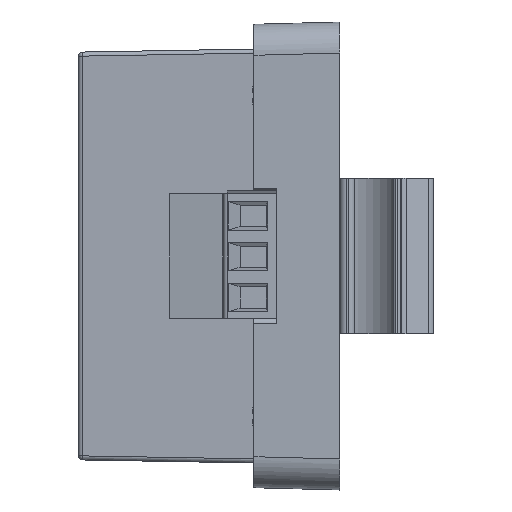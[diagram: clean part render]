
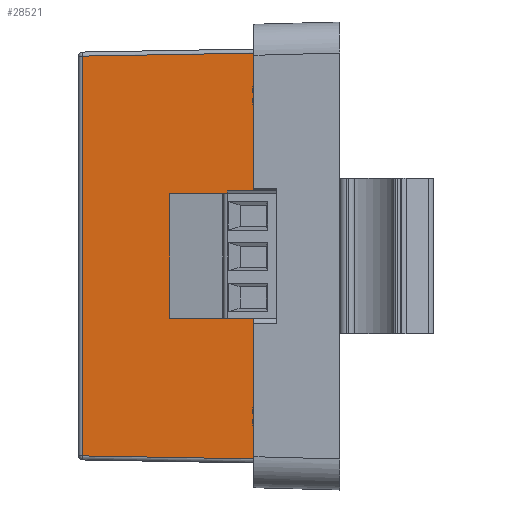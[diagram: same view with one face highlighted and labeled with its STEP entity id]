
A CAD part, left-side view. The second image highlights one B-rep face of the part: STEP entity #28521.
In plain terms, the highlighted planar face has unit normal (-1, 0.018, 0).
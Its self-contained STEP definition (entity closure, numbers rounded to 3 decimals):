
#2460 = VECTOR ( 'NONE', #54352, 1000. ) ;
#4736 = VECTOR ( 'NONE', #50736, 1000. ) ;
#6602 = ORIENTED_EDGE ( 'NONE', *, *, #67703, .F. ) ;
#7747 = ORIENTED_EDGE ( 'NONE', *, *, #43440, .T. ) ;
#9384 = EDGE_CURVE ( 'NONE', #73257, #43495, #50613, .T. ) ;
#9405 = AXIS2_PLACEMENT_3D ( 'NONE', #93830, #40910, #65436 ) ;
#15999 = FACE_OUTER_BOUND ( 'NONE', #50869, .T. ) ;
#18017 = CARTESIAN_POINT ( 'NONE',  ( -35.969, 10.381, 100.472 ) ) ;
#23160 = ORIENTED_EDGE ( 'NONE', *, *, #9384, .T. ) ;
#26857 = EDGE_CURVE ( 'NONE', #36971, #73257, #29160, .T. ) ;
#28521 = ADVANCED_FACE ( 'NONE', ( #15999 ), #46468, .T. ) ;
#29160 = LINE ( 'NONE', #42237, #4736 ) ;
#33266 = CARTESIAN_POINT ( 'NONE',  ( -36.397, -14.128, 51.1 ) ) ;
#33430 = ORIENTED_EDGE ( 'NONE', *, *, #26857, .T. ) ;
#35582 = CARTESIAN_POINT ( 'NONE',  ( -35.969, 10.381, 50.6 ) ) ;
#36442 = CARTESIAN_POINT ( 'NONE',  ( -35.969, 10.381, 51.528 ) ) ;
#36971 = VERTEX_POINT ( 'NONE', #40412 ) ;
#40412 = CARTESIAN_POINT ( 'NONE',  ( -36.397, -14.128, 100.9 ) ) ;
#40910 = DIRECTION ( 'NONE',  ( -1., 0.017, 0. ) ) ;
#42237 = CARTESIAN_POINT ( 'NONE',  ( -36.382, -13.251, 100.885 ) ) ;
#43440 = EDGE_CURVE ( 'NONE', #43495, #84151, #97316, .T. ) ;
#43481 = CARTESIAN_POINT ( 'NONE',  ( -36.397, -14.137, 51.1 ) ) ;
#43495 = VERTEX_POINT ( 'NONE', #36442 ) ;
#46468 = PLANE ( 'NONE',  #9405 ) ;
#49693 = VECTOR ( 'NONE', #59482, 1000. ) ;
#50613 = LINE ( 'NONE', #35582, #71621 ) ;
#50736 = DIRECTION ( 'NONE',  ( 0.017, 1., -0.017 ) ) ;
#50869 = EDGE_LOOP ( 'NONE', ( #23160, #7747, #6602, #33430 ) ) ;
#54352 = DIRECTION ( 'NONE',  ( 0., 0., -1. ) ) ;
#59482 = DIRECTION ( 'NONE',  ( -0.017, -1., -0.017 ) ) ;
#61786 = CARTESIAN_POINT ( 'NONE',  ( -36.397, -14.128, 50.6 ) ) ;
#65436 = DIRECTION ( 'NONE',  ( 0.017, 1., 0. ) ) ;
#67703 = EDGE_CURVE ( 'NONE', #36971, #84151, #71274, .T. ) ;
#71274 = LINE ( 'NONE', #61786, #2460 ) ;
#71621 = VECTOR ( 'NONE', #81072, 1000. ) ;
#73257 = VERTEX_POINT ( 'NONE', #18017 ) ;
#81072 = DIRECTION ( 'NONE',  ( 0., 0., -1. ) ) ;
#84151 = VERTEX_POINT ( 'NONE', #33266 ) ;
#93830 = CARTESIAN_POINT ( 'NONE',  ( -36.397, -14.128, 50.6 ) ) ;
#97316 = LINE ( 'NONE', #43481, #49693 ) ;
